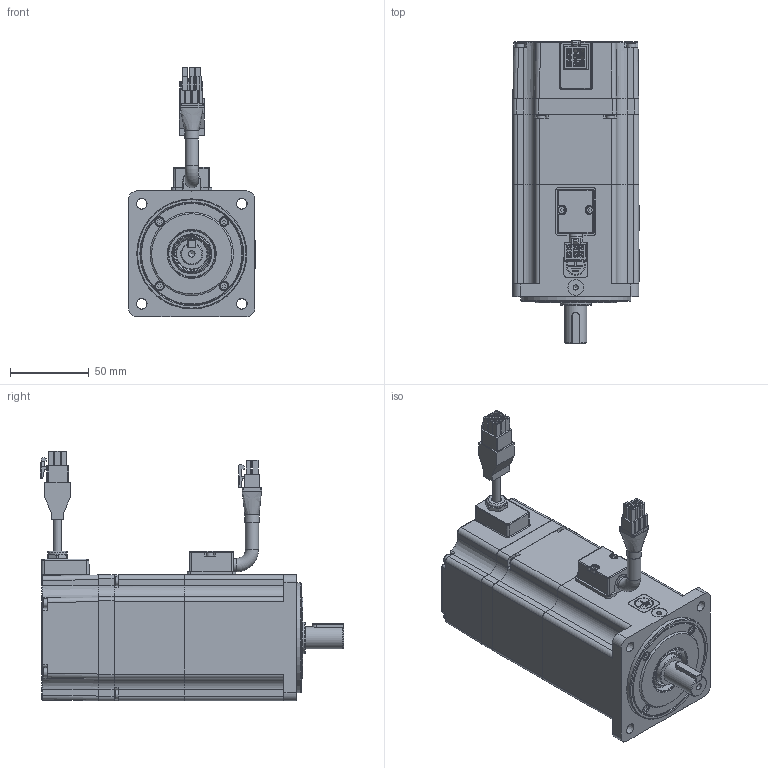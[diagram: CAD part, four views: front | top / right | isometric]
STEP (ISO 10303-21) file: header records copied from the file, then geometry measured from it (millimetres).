
FILE_DESCRIPTION(/* description */ ('AdapterTestApp'),/* implementation_level */ '2;1');
FILE_NAME(/* name */ 'TCE80 3A XX 3 A1 1 D0',/* time_stamp */ '2015-09-21T17:07:48+02:00',/* author */ ('AdapterTestApp'),/* organization */ ('Siemens PLM Software'),/* preprocessor_version */ 'ST-DEVELOPER v15.6',/* originating_system */ 'DEX',/* authorisation */ $);
FILE_SCHEMA (('AUTOMOTIVE_DESIGN {1 0 10303 214 3 1 1}'));
Products named in the file (37): TCE80 3A XX 3 A1 1 D0_vuoto; 005911000182; 005911000004; 005911003621; 005113000362; 005008000740; 005008000908; 005204000003; 003103001504; 003108020178_dritto; 005603001018; 003303000021; 005711000200; U5120003_vuoto; cap-M3 nudo; 003120002504; 001799000503; 005911003639; 005911000598; 005711000130; 003108015152_curva; 003303000376; 005453000452_D8,5; 005123000800; 005204000001; 005204000002; 003251022002; 005911000493; 005119001502; 005123000690; 001107000619; 003155002051; ALBERO TCE80 3A SKx36 BRAKE; 005008000690; distanziale campana TCE80
Assembly tree (51 placements, depth 4):
  TCE80 3A XX 3 A1 1 D0_vuoto
    005911000182  x4
    005911000004  x4
    005911003621  x4
    005113000362
    005008000740
    005008000908
    005204000003
    003103001504
    003108020178_dritto
      003108020178_dritto
      005603001018
      003303000021
      005711000200  x2
    U5120003_vuoto
      cap-M3 nudo
      003120002504
      001799000503
      005911003639
      005911000598  x2
      005711000130
      003108015152_curva
        003108015152_curva
        003303000376
        005453000452_D8,5
    005123000800
    005204000001
    005204000002
    003251022002
    005911000493  x4
    005119001502
    005123000690
    001107000619
    003155002051
    ALBERO TCE80 3A SKx36 BRAKE
    005008000690  x2
    distanziale campana TCE80
Bounding box: 80.3 x 192.9 x 158.7 mm (x, y, z)
Volume: 387136.9 mm3; surface area: 213316.2 mm2
Topology: 68 solids, 68 shells, 2355 faces, 5820 edges, 3727 vertices
Faces by surface type: plane 1401, cylinder 494, torus 129, cone 122, bspline 111, sphere 61, extrusion 37
Full cylindrical faces by diameter (mm): 2.013 x3, 2.459 x36, 2.5 x3, 2.6 x9, 2.7 x2, 3 x16, 3.2 x2, 3.242 x4, 3.5 x20, 4.134 x2, 4.7 x4, 5 x1, 5.2 x1, 5.3 x2, 5.5 x18, 6 x1, 7.2 x1, 8 x3, 8.1 x1, 8.5 x2, 8.51 x1, 9.11 x1, 10 x3, 10.3 x2, 10.647 x1, 11 x1, 12 x3, 12.7 x1, 14 x1, 14.99 x1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
Entity records: 69195 total; most frequent: CARTESIAN_POINT 18845, DIRECTION 10001, ORIENTED_EDGE 9826, EDGE_CURVE 4913, VERTEX_POINT 3366, AXIS2_PLACEMENT_3D 3350, VECTOR 3301, LINE 3264
